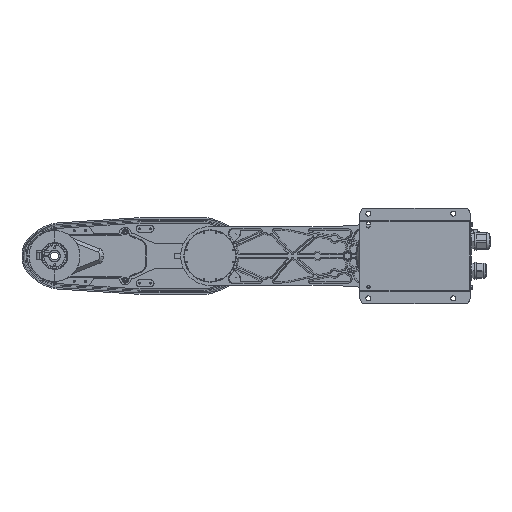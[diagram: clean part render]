
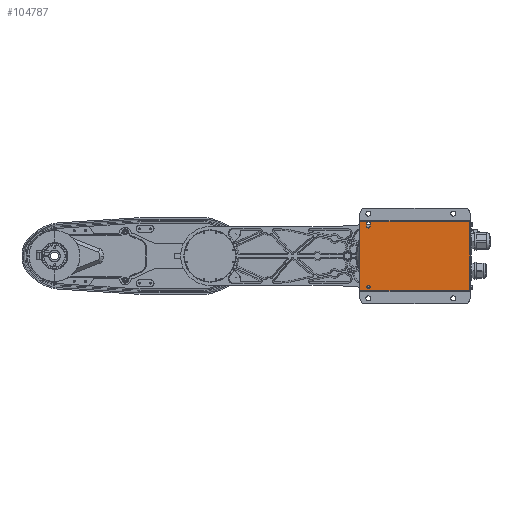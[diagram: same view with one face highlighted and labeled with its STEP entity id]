
A CAD part, front view. The second image highlights one B-rep face of the part: STEP entity #104787.
In plain terms, the highlighted planar face has unit normal (0, -1, 0).
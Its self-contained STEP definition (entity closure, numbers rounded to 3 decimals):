
#782 = CARTESIAN_POINT ( 'NONE',  ( 135., 1., -61.5 ) ) ;
#2067 = CARTESIAN_POINT ( 'NONE',  ( -48., 1., 57.5 ) ) ;
#2688 = EDGE_LOOP ( 'NONE', ( #26294, #68016 ) ) ;
#4543 = EDGE_CURVE ( 'NONE', #32025, #14658, #100821, .T. ) ;
#5288 = VERTEX_POINT ( 'NONE', #10981 ) ;
#6013 = VERTEX_POINT ( 'NONE', #84470 ) ;
#6078 = CARTESIAN_POINT ( 'NONE',  ( -60., 1., 61.5 ) ) ;
#6529 = DIRECTION ( 'NONE',  ( -1., 0., 0. ) ) ;
#7101 = CARTESIAN_POINT ( 'NONE',  ( -45., 1., 57.5 ) ) ;
#7673 = DIRECTION ( 'NONE',  ( 0., 0., 1. ) ) ;
#7989 = DIRECTION ( 'NONE',  ( -1., 0., 0. ) ) ;
#9283 = AXIS2_PLACEMENT_3D ( 'NONE', #105439, #96579, #78889 ) ;
#10213 = DIRECTION ( 'NONE',  ( 0., 0., -1. ) ) ;
#10981 = CARTESIAN_POINT ( 'NONE',  ( -45., 1., -58. ) ) ;
#11364 = LINE ( 'NONE', #61684, #95564 ) ;
#11839 = AXIS2_PLACEMENT_3D ( 'NONE', #7101, #90693, #6529 ) ;
#14339 = CARTESIAN_POINT ( 'NONE',  ( -45., 1., -52. ) ) ;
#14658 = VERTEX_POINT ( 'NONE', #102915 ) ;
#15263 = EDGE_CURVE ( 'NONE', #99548, #32025, #66650, .T. ) ;
#16552 = ORIENTED_EDGE ( 'NONE', *, *, #56528, .T. ) ;
#18164 = PLANE ( 'NONE',  #98519 ) ;
#19234 = DIRECTION ( 'NONE',  ( 1., 0., 0. ) ) ;
#19321 = LINE ( 'NONE', #53044, #56087 ) ;
#19910 = CIRCLE ( 'NONE', #9283, 3. ) ;
#23344 = VECTOR ( 'NONE', #7989, 1000. ) ;
#25525 = VERTEX_POINT ( 'NONE', #2067 ) ;
#25970 = DIRECTION ( 'NONE',  ( 0., 0., 1. ) ) ;
#26294 = ORIENTED_EDGE ( 'NONE', *, *, #58042, .T. ) ;
#27496 = FACE_BOUND ( 'NONE', #2688, .T. ) ;
#28592 = VECTOR ( 'NONE', #7673, 1000. ) ;
#29738 = CARTESIAN_POINT ( 'NONE',  ( -48., 1., 52.5 ) ) ;
#29951 = EDGE_CURVE ( 'NONE', #6013, #66346, #11364, .T. ) ;
#32002 = ORIENTED_EDGE ( 'NONE', *, *, #42962, .T. ) ;
#32025 = VERTEX_POINT ( 'NONE', #63387 ) ;
#32077 = ORIENTED_EDGE ( 'NONE', *, *, #75837, .F. ) ;
#34588 = ORIENTED_EDGE ( 'NONE', *, *, #63566, .F. ) ;
#36169 = DIRECTION ( 'NONE',  ( 0., 1., 0. ) ) ;
#38149 = EDGE_CURVE ( 'NONE', #105467, #66346, #107387, .T. ) ;
#38474 = VERTEX_POINT ( 'NONE', #83865 ) ;
#38936 = AXIS2_PLACEMENT_3D ( 'NONE', #63761, #45555, #70445 ) ;
#39269 = EDGE_CURVE ( 'NONE', #25525, #99548, #59518, .T. ) ;
#42962 = EDGE_CURVE ( 'NONE', #14658, #49760, #67194, .T. ) ;
#44154 = ORIENTED_EDGE ( 'NONE', *, *, #39269, .T. ) ;
#45555 = DIRECTION ( 'NONE',  ( 0., 1., 0. ) ) ;
#47479 = CARTESIAN_POINT ( 'NONE',  ( -42., 1., 57.5 ) ) ;
#49760 = VERTEX_POINT ( 'NONE', #29738 ) ;
#50698 = CIRCLE ( 'NONE', #75472, 3. ) ;
#53044 = CARTESIAN_POINT ( 'NONE',  ( -48., 1., 52.5 ) ) ;
#55740 = DIRECTION ( 'NONE',  ( 0., 1., 0. ) ) ;
#56087 = VECTOR ( 'NONE', #25970, 1000. ) ;
#56528 = EDGE_CURVE ( 'NONE', #49760, #25525, #19321, .T. ) ;
#58042 = EDGE_CURVE ( 'NONE', #5288, #97325, #50698, .T. ) ;
#59518 = CIRCLE ( 'NONE', #11839, 3. ) ;
#60089 = AXIS2_PLACEMENT_3D ( 'NONE', #106741, #55740, #81293 ) ;
#60159 = FACE_OUTER_BOUND ( 'NONE', #94746, .T. ) ;
#61684 = CARTESIAN_POINT ( 'NONE',  ( 135., 1., -61.5 ) ) ;
#63387 = CARTESIAN_POINT ( 'NONE',  ( -42., 1., 52.5 ) ) ;
#63566 = EDGE_CURVE ( 'NONE', #38474, #105467, #75186, .T. ) ;
#63761 = CARTESIAN_POINT ( 'NONE',  ( -45., 1., 52.5 ) ) ;
#66346 = VERTEX_POINT ( 'NONE', #106473 ) ;
#66650 = LINE ( 'NONE', #98275, #84497 ) ;
#67194 = CIRCLE ( 'NONE', #38936, 3. ) ;
#67358 = CARTESIAN_POINT ( 'NONE',  ( -60., 1., -61.5 ) ) ;
#68016 = ORIENTED_EDGE ( 'NONE', *, *, #78926, .T. ) ;
#68314 = CARTESIAN_POINT ( 'NONE',  ( -45., 1., -55. ) ) ;
#69579 = CARTESIAN_POINT ( 'NONE',  ( 135., 1., 61.5 ) ) ;
#70111 = DIRECTION ( 'NONE',  ( 0., 1., 0. ) ) ;
#70445 = DIRECTION ( 'NONE',  ( 0., 0., -1. ) ) ;
#71095 = ORIENTED_EDGE ( 'NONE', *, *, #38149, .F. ) ;
#75186 = LINE ( 'NONE', #67358, #28592 ) ;
#75249 = EDGE_LOOP ( 'NONE', ( #87025, #32002, #16552, #44154, #84529 ) ) ;
#75472 = AXIS2_PLACEMENT_3D ( 'NONE', #68314, #36169, #10213 ) ;
#75837 = EDGE_CURVE ( 'NONE', #6013, #38474, #91618, .T. ) ;
#78889 = DIRECTION ( 'NONE',  ( 0., 0., 1. ) ) ;
#78926 = EDGE_CURVE ( 'NONE', #97325, #5288, #19910, .T. ) ;
#81293 = DIRECTION ( 'NONE',  ( 0., 0., -1. ) ) ;
#83865 = CARTESIAN_POINT ( 'NONE',  ( -60., 1., -61.5 ) ) ;
#84470 = CARTESIAN_POINT ( 'NONE',  ( 135., 1., -61.5 ) ) ;
#84497 = VECTOR ( 'NONE', #108265, 1000. ) ;
#84529 = ORIENTED_EDGE ( 'NONE', *, *, #15263, .T. ) ;
#87025 = ORIENTED_EDGE ( 'NONE', *, *, #4543, .T. ) ;
#89828 = CARTESIAN_POINT ( 'NONE',  ( -60., 1., 61.5 ) ) ;
#90693 = DIRECTION ( 'NONE',  ( 0., 1., 0. ) ) ;
#91473 = VECTOR ( 'NONE', #107947, 1000. ) ;
#91618 = LINE ( 'NONE', #782, #23344 ) ;
#93931 = DIRECTION ( 'NONE',  ( 0., 0., 1. ) ) ;
#94033 = FACE_BOUND ( 'NONE', #75249, .T. ) ;
#94746 = EDGE_LOOP ( 'NONE', ( #32077, #106578, #71095, #34588 ) ) ;
#95564 = VECTOR ( 'NONE', #93931, 1000. ) ;
#96579 = DIRECTION ( 'NONE',  ( 0., 1., 0. ) ) ;
#97325 = VERTEX_POINT ( 'NONE', #14339 ) ;
#98275 = CARTESIAN_POINT ( 'NONE',  ( -42., 1., 57.5 ) ) ;
#98519 = AXIS2_PLACEMENT_3D ( 'NONE', #69579, #70111, #19234 ) ;
#99548 = VERTEX_POINT ( 'NONE', #47479 ) ;
#100821 = CIRCLE ( 'NONE', #60089, 3. ) ;
#102915 = CARTESIAN_POINT ( 'NONE',  ( -45., 1., 49.5 ) ) ;
#104787 = ADVANCED_FACE ( 'NONE', ( #60159, #27496, #94033 ), #18164, .F. ) ;
#105439 = CARTESIAN_POINT ( 'NONE',  ( -45., 1., -55. ) ) ;
#105467 = VERTEX_POINT ( 'NONE', #89828 ) ;
#106473 = CARTESIAN_POINT ( 'NONE',  ( 135., 1., 61.5 ) ) ;
#106578 = ORIENTED_EDGE ( 'NONE', *, *, #29951, .T. ) ;
#106741 = CARTESIAN_POINT ( 'NONE',  ( -45., 1., 52.5 ) ) ;
#107387 = LINE ( 'NONE', #6078, #91473 ) ;
#107947 = DIRECTION ( 'NONE',  ( 1., 0., 0. ) ) ;
#108265 = DIRECTION ( 'NONE',  ( 0., 0., -1. ) ) ;
